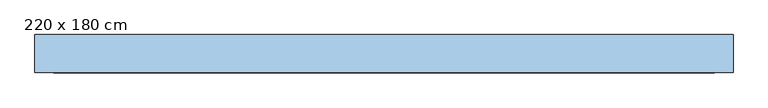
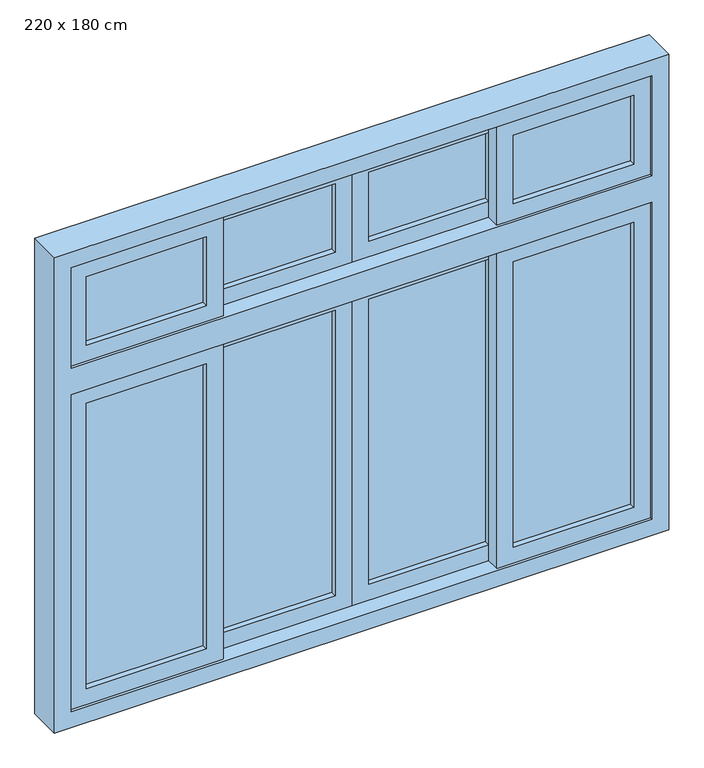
"""IFC4 building model written with IfcOpenShell, lengths in millimetres: window geometry, 四開窗-含氣窗- (1) : 220 x 180 cm."""

import ifcopenshell
import ifcopenshell.guid

model = None  # the IFC model being written
_history = None  # IfcOwnerHistory: only IFC2X3 demands one
_inside = {}  # id of a spatial element -> (the spatial element, [elements in it])
_under = {}  # id of a project, library or spatial element -> (it, [spatial elements below it])
_declared = {}  # id of a project -> (the project, [libraries it declares])
_typed = {}  # id of a type object -> (the type object, [elements of that type])
_made_of = {}  # id of a material, layer set ... -> (it, [elements and type objects made of it])


def new_model(schema):
    """Start an empty IFC model of exactly this schema.

    Asked for "IFC4X3", IfcOpenShell would pick the latest addendum, in which some entities
    have other attributes; the version numbers below select the first issue.
    IFC2X3 requires an IfcOwnerHistory on every rooted entity: one is made here for all.
    """
    global model, _history
    if schema == "IFC4X3":
        model = ifcopenshell.file(schema_version=(4, 3, 0, 0))
    else:
        model = ifcopenshell.file(schema=schema)
    _inside.clear()
    _under.clear()
    _declared.clear()
    _typed.clear()
    _made_of.clear()
    _history = None
    if model.schema == "IFC2X3":
        org = make("IfcOrganization", Name="unknown")
        user = make(
            "IfcPersonAndOrganization",
            ThePerson=make("IfcPerson", FamilyName="unknown"),
            TheOrganization=org,
        )
        app = make(
            "IfcApplication",
            ApplicationDeveloper=org,
            Version="unknown",
            ApplicationFullName="unknown",
            ApplicationIdentifier="unknown",
        )
        _history = make(
            "IfcOwnerHistory",
            OwningUser=user,
            OwningApplication=app,
            ChangeAction="ADDED",
            CreationDate=0,
        )
    return model


def make(cls, **values):
    """One entity of the class cls with the attributes given. An attribute that is None is left unset."""
    return model.create_entity(
        cls, **{name: value for name, value in values.items() if value is not None}
    )


def rooted(cls, **values):
    """An entity with a GlobalId (a new one), such as an element, a storey or a relation."""
    return make(cls, GlobalId=ifcopenshell.guid.new(), OwnerHistory=_history, **values)


def si_unit(unit_type, name, prefix=None):
    """IfcSIUnit, for example si_unit("LENGTHUNIT", "METRE", prefix="MILLI")."""
    return make("IfcSIUnit", UnitType=unit_type, Prefix=prefix, Name=name)


def assignment(units):
    """IfcUnitAssignment: the units of a project."""
    return None if units is None else make("IfcUnitAssignment", Units=units)


def point(xyz):
    """IfcCartesianPoint."""
    return None if xyz is None else make("IfcCartesianPoint", Coordinates=xyz)


def direction(xyz):
    """IfcDirection."""
    return None if xyz is None else make("IfcDirection", DirectionRatios=xyz)


def frame(location, z_axis=None, x_axis=None):
    """IfcAxis2Placement3D, a coordinate frame: its origin and axes. An axis left out is left unset."""
    return make(
        "IfcAxis2Placement3D",
        Location=point(location),
        Axis=direction(z_axis),
        RefDirection=direction(x_axis),
    )


def origin():
    """The frame at (0, 0, 0) with its axes left unset."""
    return frame((0.0, 0.0, 0.0))


def place(relative_to, where):
    """IfcLocalPlacement: puts the frame where relative to a parent placement (None: the world)."""
    return make(
        "IfcLocalPlacement", PlacementRelTo=relative_to, RelativePlacement=where
    )


def context(
    kind, dimensions, precision=None, world=None, true_north=None, identifier=None
):
    """IfcGeometricRepresentationContext, for example the 3D "Model" context."""
    return make(
        "IfcGeometricRepresentationContext",
        ContextIdentifier=identifier,
        ContextType=kind,
        CoordinateSpaceDimension=dimensions,
        Precision=precision,
        WorldCoordinateSystem=world,
        TrueNorth=true_north,
    )


def project(units=None, contexts=None):
    """IfcProject with its units and contexts."""
    return rooted(
        "IfcProject",
        Name="project",
        RepresentationContexts=contexts,
        UnitsInContext=assignment(units),
    )


def spatial(cls, under=None, at=None, **own):
    """A site, building, storey or space (cls), placed at a placement, below another one or the project."""
    s = rooted(cls, ObjectPlacement=at, **own)
    if under is not None:
        _under.setdefault(under.id(), (under, []))[1].append(s)
    return s


def polyline(points):
    """IfcPolyline through the points."""
    return make("IfcPolyline", Points=[point(p) for p in points])


def outline(outer, holes=None, kind="AREA"):
    """IfcArbitraryClosedProfileDef: a profile drawn as a closed curve; with holes, ...WithVoids."""
    if holes is None:
        return make("IfcArbitraryClosedProfileDef", ProfileType=kind, OuterCurve=outer)
    return make(
        "IfcArbitraryProfileDefWithVoids",
        ProfileType=kind,
        OuterCurve=outer,
        InnerCurves=holes,
    )


def extrude(swept, where, along, depth):
    """IfcExtrudedAreaSolid: the profile swept, set in the frame where, extruded along a direction by depth."""
    return make(
        "IfcExtrudedAreaSolid",
        SweptArea=swept,
        Position=where,
        ExtrudedDirection=direction(along),
        Depth=depth,
    )


def shape(context_of_items, identifier, shape_type, items):
    """IfcShapeRepresentation: the items that make up one representation, for example the "Body"."""
    return make(
        "IfcShapeRepresentation",
        ContextOfItems=context_of_items,
        RepresentationIdentifier=identifier,
        RepresentationType=shape_type,
        Items=items,
    )


def source(mapping_origin, context_of_items, identifier, shape_type, items):
    """IfcRepresentationMap: a shape defined once, which mapped items show again and again."""
    return make(
        "IfcRepresentationMap",
        MappingOrigin=mapping_origin,
        MappedRepresentation=shape(context_of_items, identifier, shape_type, items),
    )


def transform(
    local_origin,
    x_axis=None,
    y_axis=None,
    z_axis=None,
    scale=None,
    scale2=None,
    scale3=None,
    uniform=True,
):
    """IfcCartesianTransformationOperator3D, or its non-uniform kind. x_axis, y_axis, z_axis: its Axis1, 2, 3."""
    if uniform:
        return make(
            "IfcCartesianTransformationOperator3D",
            Axis1=direction(x_axis),
            Axis2=direction(y_axis),
            LocalOrigin=point(local_origin),
            Scale=scale,
            Axis3=direction(z_axis),
        )
    return make(
        "IfcCartesianTransformationOperator3DnonUniform",
        Axis1=direction(x_axis),
        Axis2=direction(y_axis),
        LocalOrigin=point(local_origin),
        Scale=scale,
        Axis3=direction(z_axis),
        Scale2=scale2,
        Scale3=scale3,
    )


def mapped(mapping_source, mapping_target):
    """IfcMappedItem: shows the shape of a source again, moved by a transform."""
    return make(
        "IfcMappedItem", MappingSource=mapping_source, MappingTarget=mapping_target
    )


def made_of(thing, what):
    """Note that an element or type object is made of a material, layer set ...; save() writes the relation."""
    if what is not None:
        _made_of.setdefault(what.id(), (what, []))[1].append(thing)
    return thing


def element(
    cls,
    number,
    at=None,
    inside=None,
    cuts=None,
    type_object=None,
    material=None,
    context=None,
    identifier="Body",
    shape_type=None,
    held_by="IfcProductDefinitionShape",
    body=None,
    shapes=None,
    **own,
):
    """One element of the class cls, such as IfcWall. Its Tag is "e" and its number.

    at: its placement. inside: the storey or other place that contains it. cuts: it is an
    opening in that element (IfcRelVoidsElement). A single representation is given by context,
    identifier, shape_type and body (its items); several are given by shapes. held_by: the class
    of the entity that holds the representations. save() writes the other relations.
    """
    e = rooted(cls, Tag="e%d" % number, ObjectPlacement=at, **own)
    if body is not None:
        shapes = [shape(context, identifier, shape_type, body)]
    if shapes is not None:
        e.Representation = make(held_by, Representations=shapes)
    if inside is not None:
        _inside.setdefault(inside.id(), (inside, []))[1].append(e)
    if cuts is not None:
        rooted(
            "IfcRelVoidsElement", RelatingBuildingElement=cuts, RelatedOpeningElement=e
        )
    if type_object is not None:
        _typed.setdefault(type_object.id(), (type_object, []))[1].append(e)
    return made_of(e, material)


def aggregate(whole, parts):
    """IfcRelAggregates: a whole, such as a stair, and the parts it consists of."""
    return rooted("IfcRelAggregates", RelatingObject=whole, RelatedObjects=parts)


def save(model, path):
    """Write the relations noted so far, then the file.

    IfcRelAggregates (storeys below a building ...), IfcRelContainedInSpatialStructure (elements
    in a storey), IfcRelDefinesByType, IfcRelAssociatesMaterial and IfcRelDeclares: one each for
    every whole, place, type object, material and project.
    """
    for whole, parts in _under.values():
        aggregate(whole, parts)
    for where, things in _inside.values():
        rooted(
            "IfcRelContainedInSpatialStructure",
            RelatedElements=things,
            RelatingStructure=where,
        )
    for kind, things in _typed.values():
        rooted("IfcRelDefinesByType", RelatedObjects=things, RelatingType=kind)
    for what, things in _made_of.values():
        rooted("IfcRelAssociatesMaterial", RelatedObjects=things, RelatingMaterial=what)
    for by, libraries in _declared.values():
        rooted("IfcRelDeclares", RelatingContext=by, RelatedDefinitions=libraries)
    model.write(path)


def window_220_x_180_cm_a244237b(model_context):
    return source(origin(), model_context, "Body", "SweptSolid", [
        extrude(outline(polyline([(2640.0, -1040.0), (2260.0, -1040.0), (2260.0, -490.0), (2640.0, -490.0), (2640.0, -1040.0)]), holes=[polyline([(2580.0, -980.0), (2580.0, -550.0), (2320.0, -550.0), (2320.0, -980.0), (2580.0, -980.0)])]), frame((0.0, -230.0, 0.0), z_axis=(0.0, 1.0, 0.0), x_axis=(0.0, 0.0, 1.0)), (0.0, 0.0, 1.0), 50.0),
        extrude(outline(polyline([(-550.0, -200.0), (-550.0, -210.0), (-980.0, -210.0), (-980.0, -200.0), (-550.0, -200.0)])), frame((0.0, 0.0, 2320.0), z_axis=(0.0, 0.0, 1.0), x_axis=(1.0, 0.0, 0.0)), (0.0, 0.0, 1.0), 260.0),
        extrude(outline(polyline([(2640.0, -550.0), (2260.0, -550.0), (2260.0, 0.0), (2640.0, 0.0), (2640.0, -550.0)]), holes=[polyline([(2580.0, -490.0), (2580.0, -60.0), (2320.0, -60.0), (2320.0, -490.0), (2580.0, -490.0)])]), frame((0.0, -180.0, 0.0), z_axis=(0.0, 1.0, 0.0), x_axis=(0.0, 0.0, 1.0)), (0.0, 0.0, 1.0), 50.0),
        extrude(outline(polyline([(-60.0, -160.0), (-490.0, -160.0), (-490.0, -150.0), (-60.0, -150.0), (-60.0, -160.0)])), frame((0.0, 0.0, 2320.0), z_axis=(0.0, 0.0, 1.0), x_axis=(1.0, 0.0, 0.0)), (0.0, 0.0, 1.0), 260.0),
        extrude(outline(polyline([(2640.0, 1040.0), (2640.0, 490.0), (2260.0, 490.0), (2260.0, 1040.0), (2640.0, 1040.0)]), holes=[polyline([(2580.0, 980.0), (2320.0, 980.0), (2320.0, 550.0), (2580.0, 550.0), (2580.0, 980.0)])]), frame((0.0, -230.0, 0.0), z_axis=(0.0, 1.0, 0.0), x_axis=(0.0, 0.0, 1.0)), (0.0, 0.0, 1.0), 50.0),
        extrude(outline(polyline([(550.0, -200.0), (980.0, -200.0), (980.0, -210.0), (550.0, -210.0), (550.0, -200.0)])), frame((0.0, 0.0, 2320.0), z_axis=(0.0, 0.0, 1.0), x_axis=(1.0, 0.0, 0.0)), (0.0, 0.0, 1.0), 260.0),
        extrude(outline(polyline([(2640.0, 550.0), (2640.0, 0.0), (2260.0, 0.0), (2260.0, 550.0), (2640.0, 550.0)]), holes=[polyline([(2580.0, 490.0), (2320.0, 490.0), (2320.0, 60.0), (2580.0, 60.0), (2580.0, 490.0)])]), frame((0.0, -180.0, 0.0), z_axis=(0.0, 1.0, 0.0), x_axis=(0.0, 0.0, 1.0)), (0.0, 0.0, 1.0), 50.0),
        extrude(outline(polyline([(60.0, -160.0), (60.0, -150.0), (490.0, -150.0), (490.0, -160.0), (60.0, -160.0)])), frame((0.0, 0.0, 2320.0), z_axis=(0.0, 0.0, 1.0), x_axis=(1.0, 0.0, 0.0)), (0.0, 0.0, 1.0), 260.0),
        extrude(outline(polyline([(2160.0, -1040.0), (960.0, -1040.0), (960.0, -490.0), (2160.0, -490.0), (2160.0, -1040.0)]), holes=[polyline([(2100.0, -980.0), (2100.0, -550.0), (1020.0, -550.0), (1020.0, -980.0), (2100.0, -980.0)])]), frame((0.0, -230.0, 0.0), z_axis=(0.0, 1.0, 0.0), x_axis=(0.0, 0.0, 1.0)), (0.0, 0.0, 1.0), 50.0),
        extrude(outline(polyline([(-550.0, -200.0), (-550.0, -210.0), (-980.0, -210.0), (-980.0, -200.0), (-550.0, -200.0)])), frame((0.0, 0.0, 1020.0), z_axis=(0.0, 0.0, 1.0), x_axis=(1.0, 0.0, 0.0)), (0.0, 0.0, 1.0), 1080.0),
        extrude(outline(polyline([(2160.0, -550.0), (960.0, -550.0), (960.0, 0.0), (2160.0, 0.0), (2160.0, -550.0)]), holes=[polyline([(2100.0, -490.0), (2100.0, -60.0), (1020.0, -60.0), (1020.0, -490.0), (2100.0, -490.0)])]), frame((0.0, -180.0, 0.0), z_axis=(0.0, 1.0, 0.0), x_axis=(0.0, 0.0, 1.0)), (0.0, 0.0, 1.0), 50.0),
        extrude(outline(polyline([(-60.0, -160.0), (-490.0, -160.0), (-490.0, -150.0), (-60.0, -150.0), (-60.0, -160.0)])), frame((0.0, 0.0, 1020.0), z_axis=(0.0, 0.0, 1.0), x_axis=(1.0, 0.0, 0.0)), (0.0, 0.0, 1.0), 1080.0),
        extrude(outline(polyline([(2160.0, 1040.0), (2160.0, 490.0), (960.0, 490.0), (960.0, 1040.0), (2160.0, 1040.0)]), holes=[polyline([(2100.0, 980.0), (1020.0, 980.0), (1020.0, 550.0), (2100.0, 550.0), (2100.0, 980.0)])]), frame((0.0, -230.0, 0.0), z_axis=(0.0, 1.0, 0.0), x_axis=(0.0, 0.0, 1.0)), (0.0, 0.0, 1.0), 50.0),
        extrude(outline(polyline([(550.0, -200.0), (980.0, -200.0), (980.0, -210.0), (550.0, -210.0), (550.0, -200.0)])), frame((0.0, 0.0, 1020.0), z_axis=(0.0, 0.0, 1.0), x_axis=(1.0, 0.0, 0.0)), (0.0, 0.0, 1.0), 1080.0),
        extrude(outline(polyline([(2160.0, 550.0), (2160.0, 0.0), (960.0, 0.0), (960.0, 550.0), (2160.0, 550.0)]), holes=[polyline([(2100.0, 490.0), (1020.0, 490.0), (1020.0, 60.0), (2100.0, 60.0), (2100.0, 490.0)])]), frame((0.0, -180.0, 0.0), z_axis=(0.0, 1.0, 0.0), x_axis=(0.0, 0.0, 1.0)), (0.0, 0.0, 1.0), 50.0),
        extrude(outline(polyline([(60.0, -160.0), (60.0, -150.0), (490.0, -150.0), (490.0, -160.0), (60.0, -160.0)])), frame((0.0, 0.0, 1020.0), z_axis=(0.0, 0.0, 1.0), x_axis=(1.0, 0.0, 0.0)), (0.0, 0.0, 1.0), 1080.0),
        extrude(outline(polyline([(2700.0, 1100.0), (2700.0, -1100.0), (900.0, -1100.0), (900.0, 1100.0), (2700.0, 1100.0)]), holes=[polyline([(2640.0, 1040.0), (2260.0, 1040.0), (2260.0, -1040.0), (2640.0, -1040.0), (2640.0, 1040.0)]), polyline([(2160.0, -1040.0), (2160.0, 1040.0), (960.0, 1040.0), (960.0, -1040.0), (2160.0, -1040.0)])]), frame((0.0, -240.0, 0.0), z_axis=(0.0, 1.0, 0.0), x_axis=(0.0, 0.0, 1.0)), (0.0, 0.0, 1.0), 120.0),
    ])


if __name__ == "__main__":
    model = new_model("IFC4")
    model_context = context("Model", 3, world=origin())
    ifc_project = project(units=[si_unit("LENGTHUNIT", "METRE", prefix="MILLI")], contexts=[model_context])
    site = spatial("IfcSite", under=ifc_project)
    building = spatial("IfcBuilding", under=site)
    placement = place(None, origin())
    window_220_x_180_cm_shape = window_220_x_180_cm_a244237b(model_context)
    element("IfcWindow", 1, ObjectType="四開窗-含氣窗- (1) : 220 x 180 cm", at=placement, inside=building, context=model_context, shape_type="MappedRepresentation", body=[
        mapped(window_220_x_180_cm_shape, transform((0.0, 0.0, 0.0), x_axis=(1.0, 0.0, 0.0), y_axis=(0.0, 1.0, 0.0), z_axis=(0.0, 0.0, 1.0))),
    ])
    save(model, "model.ifc")
